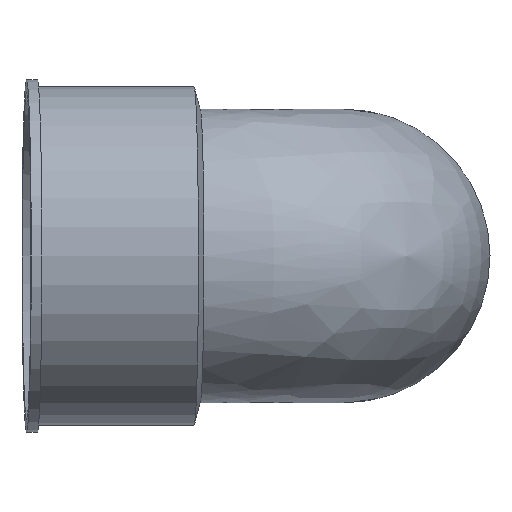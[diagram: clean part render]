
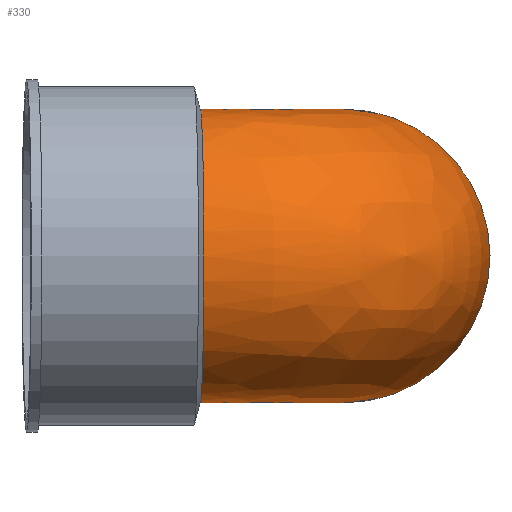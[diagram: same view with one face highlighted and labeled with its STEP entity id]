
A CAD part, left-side view. The second image highlights one B-rep face of the part: STEP entity #330.
In plain terms, the highlighted free-form (B-spline) face has degree [2, 2] with [5, 3] control points.
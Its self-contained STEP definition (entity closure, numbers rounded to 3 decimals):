
#17=(
BOUNDED_SURFACE()
B_SPLINE_SURFACE(2,2,((#852,#853,#854),(#855,#856,#857),(#858,#859,#860),
(#861,#862,#863),(#864,#865,#866)),.UNSPECIFIED.,.F.,.F.,.F.)
B_SPLINE_SURFACE_WITH_KNOTS((3,2,3),(3,3),(-1.571,0.,
1.571),(-1.571,-0.026),.UNSPECIFIED.)
GEOMETRIC_REPRESENTATION_ITEM()
RATIONAL_B_SPLINE_SURFACE(((1.,0.716,1.),(0.707,
0.507,0.707),(1.,0.716,1.),(0.707,
0.507,0.707),(1.,0.716,1.)))
REPRESENTATION_ITEM('')
SURFACE()
);
#70=FACE_OUTER_BOUND('',#94,.T.);
#94=EDGE_LOOP('',(#244,#245,#246,#247));
#121=CIRCLE('',#369,55.);
#131=CIRCLE('',#382,55.);
#132=CIRCLE('',#383,55.);
#133=CIRCLE('',#384,55.);
#152=VERTEX_POINT('',#557);
#153=VERTEX_POINT('',#559);
#165=VERTEX_POINT('',#867);
#166=VERTEX_POINT('',#868);
#180=EDGE_CURVE('',#153,#152,#121,.T.);
#197=EDGE_CURVE('',#165,#166,#131,.T.);
#198=EDGE_CURVE('',#153,#165,#132,.T.);
#199=EDGE_CURVE('',#152,#166,#133,.T.);
#244=ORIENTED_EDGE('',*,*,#197,.F.);
#245=ORIENTED_EDGE('',*,*,#198,.F.);
#246=ORIENTED_EDGE('',*,*,#180,.T.);
#247=ORIENTED_EDGE('',*,*,#199,.T.);
#330=ADVANCED_FACE('',(#70),#17,.F.);
#369=AXIS2_PLACEMENT_3D('',#560,#424,#425);
#382=AXIS2_PLACEMENT_3D('',#869,#454,#455);
#383=AXIS2_PLACEMENT_3D('',#870,#456,#457);
#384=AXIS2_PLACEMENT_3D('',#871,#458,#459);
#424=DIRECTION('center_axis',(-1.,0.,0.));
#425=DIRECTION('ref_axis',(0.,0.,-1.));
#454=DIRECTION('center_axis',(-0.026,1.,0.));
#455=DIRECTION('ref_axis',(-1.,-0.026,0.));
#456=DIRECTION('center_axis',(0.,0.,-1.));
#457=DIRECTION('ref_axis',(0.,-1.,0.));
#458=DIRECTION('center_axis',(0.,0.,-1.));
#459=DIRECTION('ref_axis',(0.,-1.,0.));
#557=CARTESIAN_POINT('',(-244.977,3.405,55.));
#559=CARTESIAN_POINT('',(-244.977,3.405,-55.));
#560=CARTESIAN_POINT('Origin',(-244.977,3.405,0.));
#852=CARTESIAN_POINT('Ctrl Pts',(-244.977,3.405,55.));
#853=CARTESIAN_POINT('Ctrl Pts',(-298.556,3.405,55.));
#854=CARTESIAN_POINT('Ctrl Pts',(-299.959,56.966,55.));
#855=CARTESIAN_POINT('Ctrl Pts',(-244.977,-51.595,55.));
#856=CARTESIAN_POINT('Ctrl Pts',(-352.135,-51.595,55.));
#857=CARTESIAN_POINT('Ctrl Pts',(-354.94,55.526,55.));
#858=CARTESIAN_POINT('Ctrl Pts',(-244.977,-51.595,0.));
#859=CARTESIAN_POINT('Ctrl Pts',(-352.135,-51.595,0.));
#860=CARTESIAN_POINT('Ctrl Pts',(-354.94,55.526,0.));
#861=CARTESIAN_POINT('Ctrl Pts',(-244.977,-51.595,-55.));
#862=CARTESIAN_POINT('Ctrl Pts',(-352.135,-51.595,-55.));
#863=CARTESIAN_POINT('Ctrl Pts',(-354.94,55.526,-55.));
#864=CARTESIAN_POINT('Ctrl Pts',(-244.977,3.405,-55.));
#865=CARTESIAN_POINT('Ctrl Pts',(-298.556,3.405,-55.));
#866=CARTESIAN_POINT('Ctrl Pts',(-299.959,56.966,-55.));
#867=CARTESIAN_POINT('',(-299.959,56.966,-55.));
#868=CARTESIAN_POINT('',(-299.959,56.966,55.));
#869=CARTESIAN_POINT('Origin',(-299.959,56.966,0.));
#870=CARTESIAN_POINT('Origin',(-244.977,58.405,-55.));
#871=CARTESIAN_POINT('Origin',(-244.977,58.405,55.));
